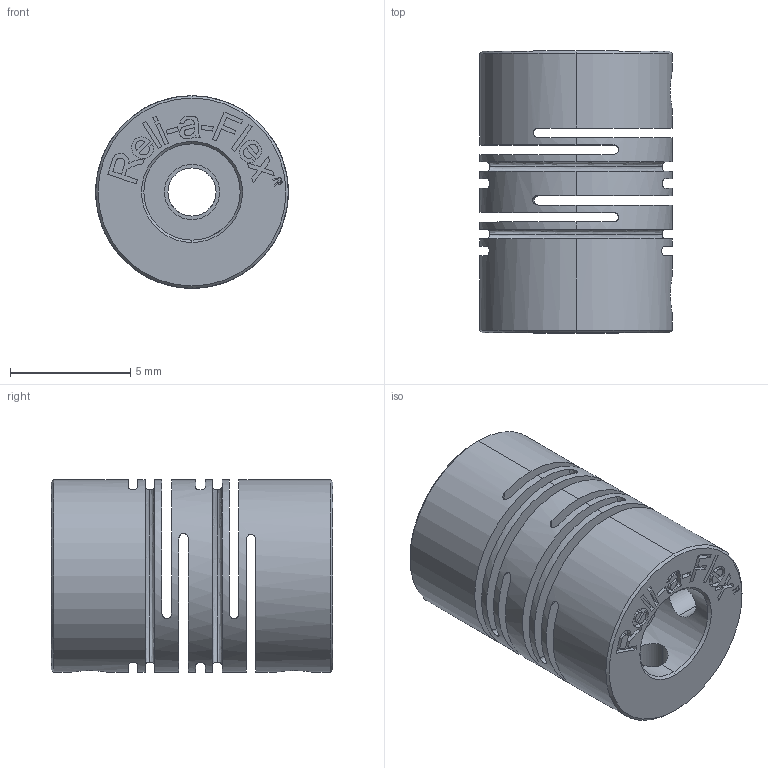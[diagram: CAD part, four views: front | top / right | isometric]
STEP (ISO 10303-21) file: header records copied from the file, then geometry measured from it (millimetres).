
FILE_DESCRIPTION (( 'STEP AP203' ), '1' );
FILE_NAME ('RCSA8-4-2.STEP', '2012-04-26T18:31:11', ( 'render' ), ( '' ), 'SwSTEP 2.0', 'SolidWorks 2011', '' );
FILE_SCHEMA (( 'CONFIG_CONTROL_DESIGN' ));
Length unit declared in the file: millimetre
Products named in the file (1): RCSA8-4-2
Bounding box: 8 x 11.7 x 8 mm (x, y, z)
Volume: 379.2 mm3; surface area: 1060 mm2
Topology: 1 solids, 1 shells, 212 faces, 576 edges, 381 vertices
Faces by surface type: plane 120, cylinder 68, bspline 16, cone 8
Entity records: 7401 total; most frequent: CARTESIAN_POINT 1968, ORIENTED_EDGE 1152, DIRECTION 1064, EDGE_CURVE 576, VERTEX_POINT 381, AXIS2_PLACEMENT_3D 365, VECTOR 334, LINE 334
